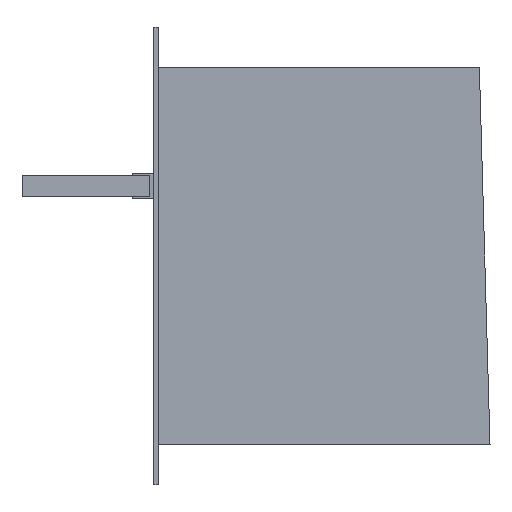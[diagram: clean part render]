
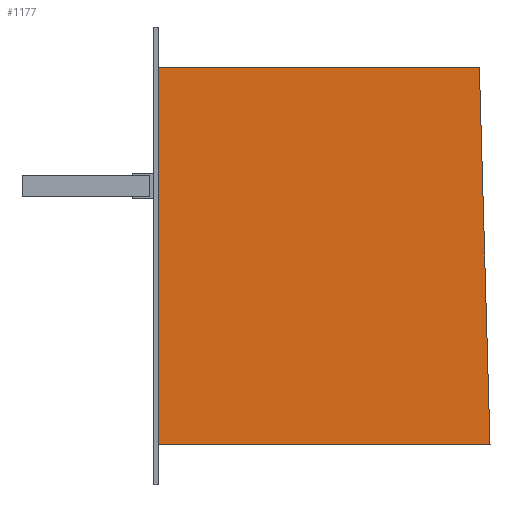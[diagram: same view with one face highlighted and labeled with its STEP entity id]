
A CAD part, left-side view. The second image highlights one B-rep face of the part: STEP entity #1177.
In plain terms, the highlighted planar face has unit normal (-1, 0, 0).
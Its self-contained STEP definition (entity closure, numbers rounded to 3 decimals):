
#9 = EDGE_CURVE ( 'NONE', #270, #359, #1303, .T. ) ;
#35 = EDGE_CURVE ( 'NONE', #263, #270, #1311, .T. ) ;
#109 = DIRECTION ( 'NONE',  ( 0., 1., 0. ) ) ;
#158 = CARTESIAN_POINT ( 'NONE',  ( -541., 0., 88.5 ) ) ;
#247 = VECTOR ( 'NONE', #258, 1000. ) ;
#258 = DIRECTION ( 'NONE',  ( 0., -1., 0. ) ) ;
#263 = VERTEX_POINT ( 'NONE', #785 ) ;
#270 = VERTEX_POINT ( 'NONE', #1516 ) ;
#359 = VERTEX_POINT ( 'NONE', #933 ) ;
#394 = VECTOR ( 'NONE', #109, 1000. ) ;
#424 = CARTESIAN_POINT ( 'NONE',  ( -541., 0., -88.5 ) ) ;
#480 = LINE ( 'NONE', #158, #1315 ) ;
#485 = ORIENTED_EDGE ( 'NONE', *, *, #9, .T. ) ;
#488 = CARTESIAN_POINT ( 'NONE',  ( -541., -151., 88.5 ) ) ;
#618 = PLANE ( 'NONE',  #1822 ) ;
#628 = CARTESIAN_POINT ( 'NONE',  ( -541., 2., 107.5 ) ) ;
#645 = ORIENTED_EDGE ( 'NONE', *, *, #1090, .T. ) ;
#657 = CARTESIAN_POINT ( 'NONE',  ( -541., 0., -88.5 ) ) ;
#785 = CARTESIAN_POINT ( 'NONE',  ( -541., -156., -88.5 ) ) ;
#933 = CARTESIAN_POINT ( 'NONE',  ( -541., 0., 88.5 ) ) ;
#1074 = DIRECTION ( 'NONE',  ( 1., 0., 0. ) ) ;
#1090 = EDGE_CURVE ( 'NONE', #359, #1648, #480, .T. ) ;
#1177 = ADVANCED_FACE ( 'NONE', ( #1201 ), #618, .F. ) ;
#1185 = LINE ( 'NONE', #424, #247 ) ;
#1201 = FACE_OUTER_BOUND ( 'NONE', #1555, .T. ) ;
#1220 = DIRECTION ( 'NONE',  ( 0., 0., -1. ) ) ;
#1303 = LINE ( 'NONE', #1909, #394 ) ;
#1311 = LINE ( 'NONE', #488, #1885 ) ;
#1315 = VECTOR ( 'NONE', #1671, 1000. ) ;
#1319 = ORIENTED_EDGE ( 'NONE', *, *, #35, .T. ) ;
#1516 = CARTESIAN_POINT ( 'NONE',  ( -541., -151., 88.5 ) ) ;
#1552 = ORIENTED_EDGE ( 'NONE', *, *, #1778, .T. ) ;
#1555 = EDGE_LOOP ( 'NONE', ( #1552, #1319, #485, #645 ) ) ;
#1648 = VERTEX_POINT ( 'NONE', #657 ) ;
#1670 = DIRECTION ( 'NONE',  ( 0., 0.028, 1. ) ) ;
#1671 = DIRECTION ( 'NONE',  ( 0., 0., -1. ) ) ;
#1778 = EDGE_CURVE ( 'NONE', #1648, #263, #1185, .T. ) ;
#1822 = AXIS2_PLACEMENT_3D ( 'NONE', #628, #1074, #1220 ) ;
#1885 = VECTOR ( 'NONE', #1670, 1000. ) ;
#1909 = CARTESIAN_POINT ( 'NONE',  ( -541., 0., 88.5 ) ) ;
